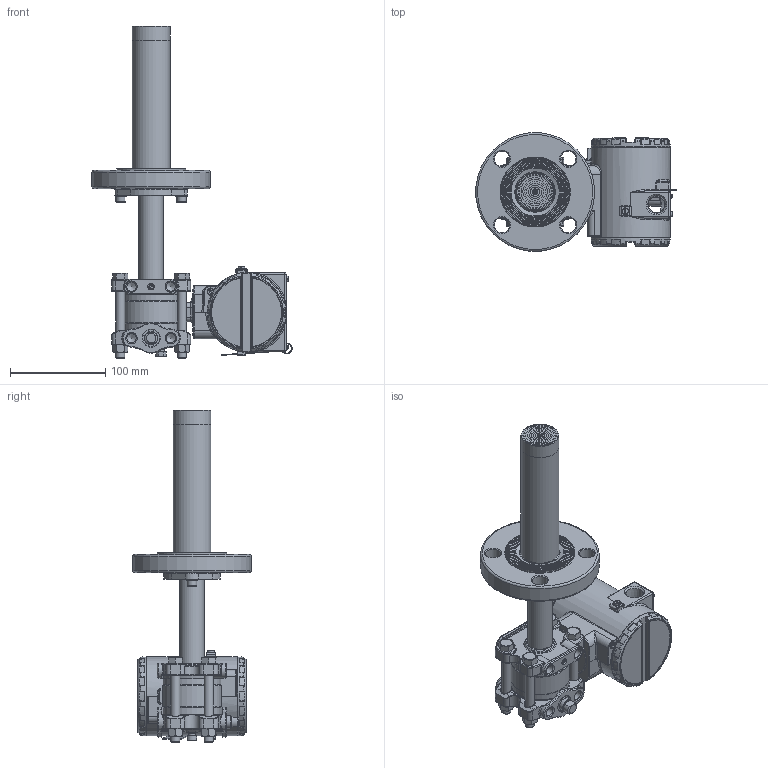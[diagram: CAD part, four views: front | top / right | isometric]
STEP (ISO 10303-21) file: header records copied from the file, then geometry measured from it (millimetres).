
FILE_DESCRIPTION(/* description */ (''),/* implementation_level */ '2;1');
FILE_NAME(/* name */ 'F:\Area\Desenvolvimento_2\Projects\Sensor\projetos\LD30X\montagens 3d - clientes\SELO NIVEL\LD30XL 1-1-2-150 RF ext 150 ref 1-4NPT purga acima.stp',/* time_stamp */ '2023-02-10T14:25:53-03:00',/* author */ ('inventor02'),/* organization */ (''),/* preprocessor_version */ 'ST-DEVELOPER v17',/* originating_system */ 'Autodesk Inventor 2019',/* authorisation */ '');
FILE_SCHEMA (('CONFIG_CONTROL_DESIGN'));
Products named in the file (41): LD30XL 1-1-2-150 RF ext 150 ref 1-4NPT purga acima; 204-0301-L-1-1-2 150 RF ext 150 purga acima; nivel fx3 com baixa diferencial 1-4NPT purga acima; involucro fx0-3 apos a usinagem final; flange diferencial std purga; 101-C-7484-01 flange selo nivel VR; 201-A-0504-tubo união teste 1; bujao 1-4NPT; Sangria; Porca 3-8 x 16 UNC; Paraf. 3-8 x 16 UNC; adaptação tubo x flanges 1-1-2 a 4pol; 101-B-0161-anel cortado do tubo - teste1; 101-B-0162-flange fixação tubo; ANSI B18.3.1M - M6x1 x 16; DIN 127 - A 6; flange 1-1-2 150 ext 150; 101-B-7699-01 ext 1-1-2-150; 101-B-5190-03; 101-C-3330-02; carcaça vazia com tampas e plaqueta; carcaça LD inox sem letras; Subconjunto plaqueta 300; Plaqueta transmissor; Parafuso da Plaqueta; Rebite da Plaqueta; 096-A-0169-03; 101-A-0502-01; Chapa aterramento externo; ISO 1207 - M4 x 8; DIN 915 - M6 x 10; ANSI B18.3.1M - M4x0,7 x 8; Subconjunto tampa com visor aluminio; tampa pintada; VIDRO DO VISOR; oring 41x1 vidro tampa; Trava do vidro da tampa com visor; trava do vidro VH256; Subconjunto tampa sem visor-aluminio; tampa cega 300 pintada p0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
Assembly tree (51 placements, depth 4):
  LD30XL 1-1-2-150 RF ext 150 ref 1-4NPT purga acima
    204-0301-L-1-1-2 150 RF ext 150 purga acima
      nivel fx3 com baixa diferencial 1-4NPT purga acima
        involucro fx0-3 apos a usinagem final
        flange diferencial std purga
        101-C-7484-01 flange selo nivel VR
        201-A-0504-tubo união teste 1
        DIN 915 - M6 x 10
        bujao 1-4NPT
        Sangria
        Porca 3-8 x 16 UNC  x4
        Paraf. 3-8 x 16 UNC  x4
      adaptação tubo x flanges 1-1-2 a 4pol
        101-B-0161-anel cortado do tubo - teste1
        101-B-0162-flange fixação tubo
        ANSI B18.3.1M - M6x1 x 16  x2
        DIN 127 - A 6  x2
      flange 1-1-2 150 ext 150
        101-B-7699-01 ext 1-1-2-150
        101-B-5190-03
        101-C-3330-02
    carcaça vazia com tampas e plaqueta
      carcaça LD inox sem letras
      Subconjunto plaqueta 300
        Plaqueta transmissor
        Parafuso da Plaqueta
        Rebite da Plaqueta
        096-A-0169-03
        101-A-0502-01
      Chapa aterramento externo
      ISO 1207 - M4 x 8
      DIN 915 - M6 x 10
      ANSI B18.3.1M - M4x0,7 x 8  x2
      Subconjunto tampa com visor aluminio
        tampa pintada
        VIDRO DO VISOR
        oring 41x1 vidro tampa
        Trava do vidro da tampa com visor
        trava do vidro VH256
        00034775-0
      Subconjunto tampa sem visor-aluminio
        tampa cega 300 pintada p0
        00034775-0
Bounding box: 210.55 x 124.52 x 349.3 mm (x, y, z)
Volume: 896267.4 mm3; surface area: 327624.9 mm2
Topology: 43 solids, 43 shells, 2726 faces, 6537 edges, 3867 vertices
Faces by surface type: bspline 667, cylinder 656, plane 560, torus 469, cone 248, sphere 126
Full cylindrical faces by diameter (mm): 2 x4, 2.1 x2, 2.459 x5, 2.5 x1, 2.642 x1, 2.7 x1, 2.8 x1, 3 x4, 3.242 x4, 3.5 x5, 3.571 x1, 4 x5, 4.3 x1, 4.4 x1, 4.917 x4, 5 x1, 5.5 x3, 6 x6, 6.647 x1, 7 x7, 7.087 x2, 7.6 x2, 7.798 x4, 8 x1, 8.7 x2, 9.525 x4, 9.728 x6, 10 x2, 10.5 x8, 10.719 x2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
Entity records: 94293 total; most frequent: CARTESIAN_POINT 34605, DIRECTION 12303, ORIENTED_EDGE 12254, EDGE_CURVE 6127, AXIS2_PLACEMENT_3D 5430, VERTEX_POINT 3673, CIRCLE 3215, EDGE_LOOP 2766
